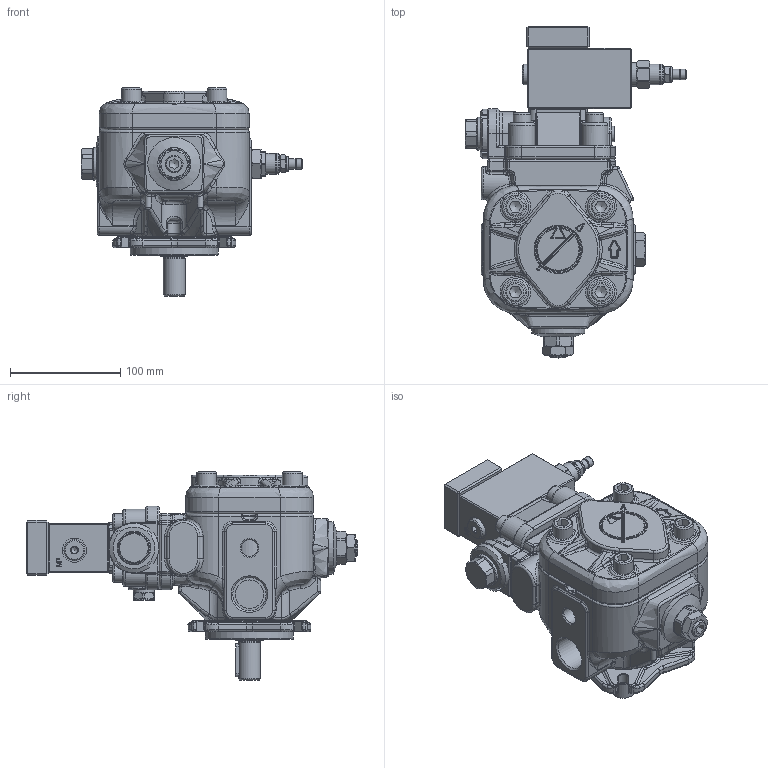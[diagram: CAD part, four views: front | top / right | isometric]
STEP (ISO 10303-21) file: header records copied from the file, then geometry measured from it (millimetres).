
FILE_DESCRIPTION(/* description */ (''),/* implementation_level */ '2;1');
FILE_NAME(/* name */ 'W:\Tecnico\Archivio\Berarma\Dimensioni Pompe\3D Export\Montaggio 3D semplificato\PLP-PHP 05\PHP05 FHRM PCS002.stp',/* time_stamp */ '2018-10-10T15:20:38+02:00',/* author */ ('marcop'),/* organization */ (''),/* preprocessor_version */ 'ST-DEVELOPER v17',/* originating_system */ 'Autodesk Inventor 2018',/* authorisation */ '');
FILE_SCHEMA (('AUTOMOTIVE_DESIGN { 1 0 10303 214 3 1 1 }'));
Products named in the file (1): PHP05_Shrinkwrap_1
Bounding box: 200.95 x 301.6 x 189 mm (x, y, z)
Volume: 2351696.2 mm3; surface area: 242684.1 mm2
Topology: 2 solids, 2 shells, 2360 faces, 5910 edges, 3577 vertices
Faces by surface type: plane 822, cylinder 499, bspline 441, torus 302, cone 241, sphere 55
Full cylindrical faces by diameter (mm): 1.7 x4, 2.5 x1, 4 x2, 6 x3, 6.5 x2, 7.2 x1, 7.671 x2, 8.5 x8, 9 x8, 9.347 x2, 9.5 x1, 11.445 x2, 12 x4, 13 x1, 13.487 x1, 13.5 x1, 13.767 x2, 14 x3, 14.5 x1, 14.63 x1, 14.95 x1, 15 x1, 15.5 x1, 16 x7, 16.376 x1, 16.5 x4, 17 x1, 17.399 x1, 17.5 x1, 17.78 x1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
Entity records: 86381 total; most frequent: CARTESIAN_POINT 30577, ORIENTED_EDGE 11622, DIRECTION 10762, EDGE_CURVE 5811, AXIS2_PLACEMENT_3D 4306, VERTEX_POINT 3577, EDGE_LOOP 2484, STYLED_ITEM 2362
